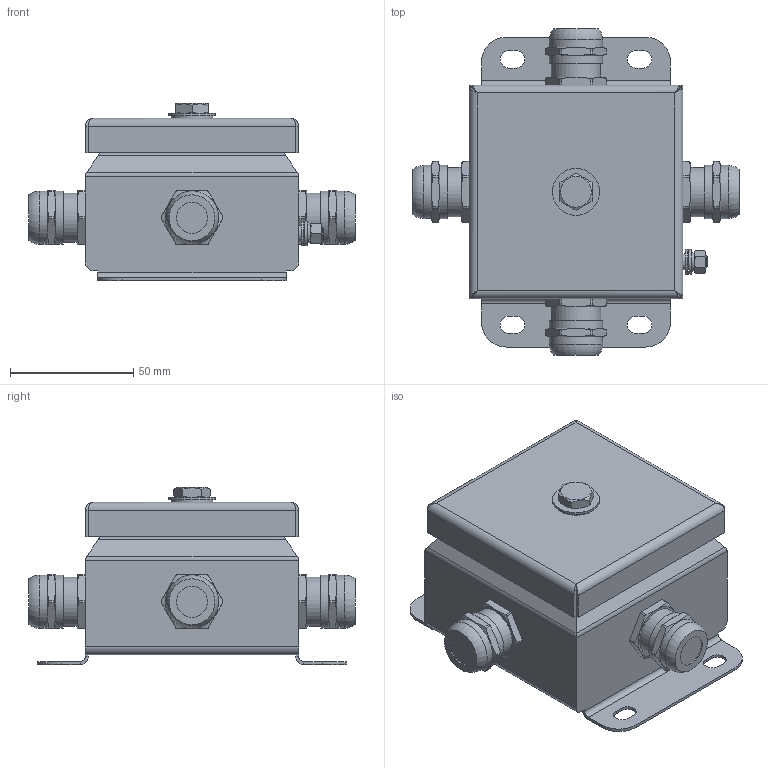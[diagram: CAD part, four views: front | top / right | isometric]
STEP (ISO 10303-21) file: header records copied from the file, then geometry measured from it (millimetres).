
FILE_DESCRIPTION(('STEP AP203'), '1');
FILE_NAME('Êîðîáêà 0808 IP66', '', ('UNSPECIFIED'), ('UNSPECIFIED'), 'ASCON STEP Converter 1.6', 'ASCON Math Kernel', '');
FILE_SCHEMA(('CONFIG_CONTROL_DESIGN'));
Length unit declared in the file: millimetre
Bounding box: 132.17 x 132.17 x 71.7 mm (x, y, z)
Volume: 477322.4 mm3; surface area: 59323.1 mm2
Topology: 1 solids, 1 shells, 355 faces, 862 edges, 539 vertices
Faces by surface type: plane 173, cylinder 125, cone 43, bspline 8, torus 6
Full cylindrical faces by diameter (mm): 3.7 x1, 5 x2, 5.5 x2, 6.5 x1, 10 x2, 12.6 x4, 17 x1, 19 x1, 20 x4, 21.6 x8
Entity records: 19021 total; most frequent: CARTESIAN_POINT 3960, ORIENTED_EDGE 1634, DIRECTION 1592, PROPERTY_DEFINITION 944, PROPERTY_DEFINITION_REPRESENTATION 944, REPRESENTATION 944, EDGE_CURVE 817, AXIS2_PLACEMENT_3D 613
